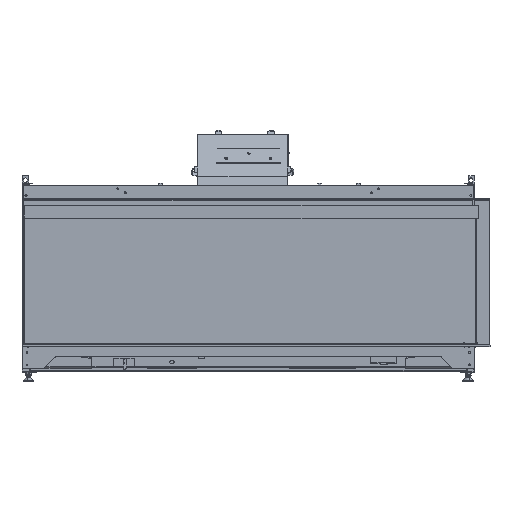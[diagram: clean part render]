
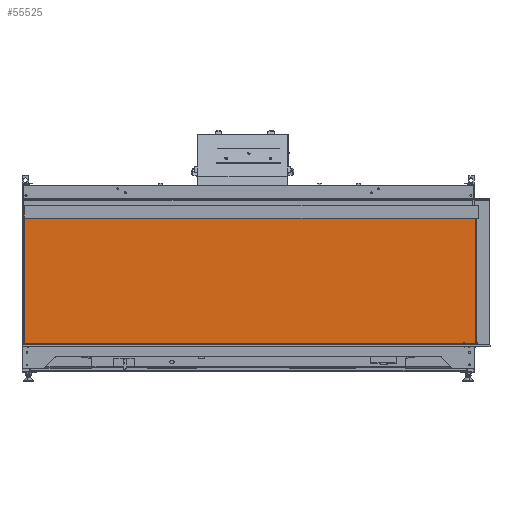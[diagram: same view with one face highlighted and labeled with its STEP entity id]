
A CAD part, top view. The second image highlights one B-rep face of the part: STEP entity #55525.
In plain terms, the highlighted planar face has unit normal (0, 0, 1).
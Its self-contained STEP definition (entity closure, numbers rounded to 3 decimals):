
#835 = CARTESIAN_POINT ( 'NONE',  ( -495.415, 529.016, 2276.998 ) ) ;
#1511 = CARTESIAN_POINT ( 'NONE',  ( 811.585, 529.016, 2276.998 ) ) ;
#2245 = EDGE_CURVE ( 'NONE', #9311, #42235, #37771, .T. ) ;
#2817 = VERTEX_POINT ( 'NONE', #52916 ) ;
#4696 = LINE ( 'NONE', #47556, #29130 ) ;
#4980 = DIRECTION ( 'NONE',  ( 1., 0., 0. ) ) ;
#6435 = EDGE_LOOP ( 'NONE', ( #35351, #21758, #47822, #49455 ) ) ;
#6806 = AXIS2_PLACEMENT_3D ( 'NONE', #41463, #22226, #27205 ) ;
#9311 = VERTEX_POINT ( 'NONE', #16435 ) ;
#10471 = DIRECTION ( 'NONE',  ( 0., -1., 0. ) ) ;
#16435 = CARTESIAN_POINT ( 'NONE',  ( 811.585, 1405.016, 2276.998 ) ) ;
#18508 = DIRECTION ( 'NONE',  ( -1., 0., 0. ) ) ;
#20151 = DIRECTION ( 'NONE',  ( 0., -1., 0. ) ) ;
#21237 = VERTEX_POINT ( 'NONE', #27119 ) ;
#21758 = ORIENTED_EDGE ( 'NONE', *, *, #22520, .T. ) ;
#22226 = DIRECTION ( 'NONE',  ( 0., 0., 1. ) ) ;
#22520 = EDGE_CURVE ( 'NONE', #21237, #2817, #4696, .T. ) ;
#25084 = LINE ( 'NONE', #835, #53559 ) ;
#25371 = EDGE_CURVE ( 'NONE', #9311, #2817, #43755, .T. ) ;
#27119 = CARTESIAN_POINT ( 'NONE',  ( -495.415, 1037.016, 2276.998 ) ) ;
#27205 = DIRECTION ( 'NONE',  ( 1., 0., 0. ) ) ;
#27984 = VECTOR ( 'NONE', #20151, 1000. ) ;
#29130 = VECTOR ( 'NONE', #4980, 1000. ) ;
#32431 = EDGE_CURVE ( 'NONE', #42235, #21237, #25084, .T. ) ;
#35351 = ORIENTED_EDGE ( 'NONE', *, *, #32431, .T. ) ;
#37771 = LINE ( 'NONE', #47693, #47687 ) ;
#40843 = CARTESIAN_POINT ( 'NONE',  ( -495.415, 1405.016, 2276.998 ) ) ;
#41463 = CARTESIAN_POINT ( 'NONE',  ( 158.085, 529.016, 2276.998 ) ) ;
#42235 = VERTEX_POINT ( 'NONE', #40843 ) ;
#43755 = LINE ( 'NONE', #1511, #27984 ) ;
#47556 = CARTESIAN_POINT ( 'NONE',  ( 158.085, 1037.016, 2276.998 ) ) ;
#47687 = VECTOR ( 'NONE', #18508, 1000. ) ;
#47693 = CARTESIAN_POINT ( 'NONE',  ( 158.085, 1405.016, 2276.998 ) ) ;
#47822 = ORIENTED_EDGE ( 'NONE', *, *, #25371, .F. ) ;
#49455 = ORIENTED_EDGE ( 'NONE', *, *, #2245, .T. ) ;
#51106 = PLANE ( 'NONE',  #6806 ) ;
#52916 = CARTESIAN_POINT ( 'NONE',  ( 811.585, 1037.016, 2276.998 ) ) ;
#53559 = VECTOR ( 'NONE', #10471, 1000. ) ;
#55525 = ADVANCED_FACE ( 'NONE', ( #60724 ), #51106, .T. ) ;
#60724 = FACE_OUTER_BOUND ( 'NONE', #6435, .T. ) ;
